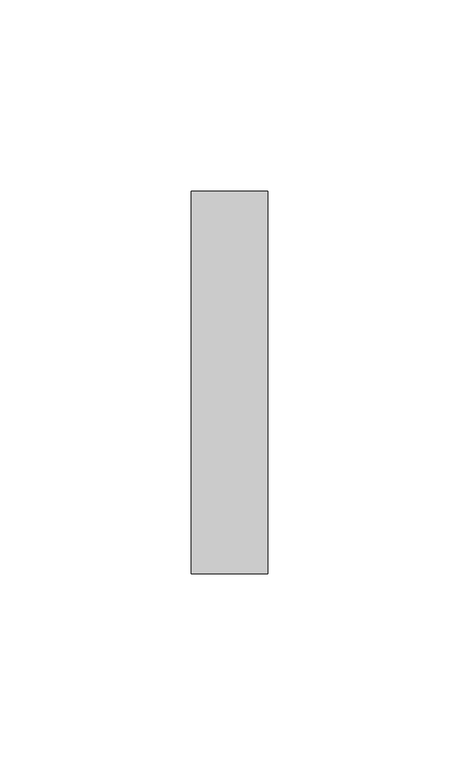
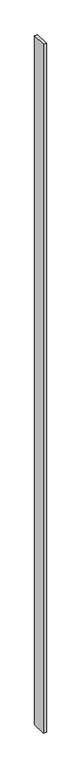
"""IFC4 building model written with IfcOpenShell, lengths in millimetres: plate geometry, システム パネルなし : なし."""

import ifcopenshell
import ifcopenshell.guid

model = None  # the IFC model being written
_history = None  # IfcOwnerHistory: only IFC2X3 demands one
_inside = {}  # id of a spatial element -> (the spatial element, [elements in it])
_under = {}  # id of a project, library or spatial element -> (it, [spatial elements below it])
_declared = {}  # id of a project -> (the project, [libraries it declares])
_typed = {}  # id of a type object -> (the type object, [elements of that type])
_made_of = {}  # id of a material, layer set ... -> (it, [elements and type objects made of it])


def new_model(schema):
    """Start an empty IFC model of exactly this schema.

    Asked for "IFC4X3", IfcOpenShell would pick the latest addendum, in which some entities
    have other attributes; the version numbers below select the first issue.
    IFC2X3 requires an IfcOwnerHistory on every rooted entity: one is made here for all.
    """
    global model, _history
    if schema == "IFC4X3":
        model = ifcopenshell.file(schema_version=(4, 3, 0, 0))
    else:
        model = ifcopenshell.file(schema=schema)
    _inside.clear()
    _under.clear()
    _declared.clear()
    _typed.clear()
    _made_of.clear()
    _history = None
    if model.schema == "IFC2X3":
        org = make("IfcOrganization", Name="unknown")
        user = make(
            "IfcPersonAndOrganization",
            ThePerson=make("IfcPerson", FamilyName="unknown"),
            TheOrganization=org,
        )
        app = make(
            "IfcApplication",
            ApplicationDeveloper=org,
            Version="unknown",
            ApplicationFullName="unknown",
            ApplicationIdentifier="unknown",
        )
        _history = make(
            "IfcOwnerHistory",
            OwningUser=user,
            OwningApplication=app,
            ChangeAction="ADDED",
            CreationDate=0,
        )
    return model


def make(cls, **values):
    """One entity of the class cls with the attributes given. An attribute that is None is left unset."""
    return model.create_entity(
        cls, **{name: value for name, value in values.items() if value is not None}
    )


def rooted(cls, **values):
    """An entity with a GlobalId (a new one), such as an element, a storey or a relation."""
    return make(cls, GlobalId=ifcopenshell.guid.new(), OwnerHistory=_history, **values)


def si_unit(unit_type, name, prefix=None):
    """IfcSIUnit, for example si_unit("LENGTHUNIT", "METRE", prefix="MILLI")."""
    return make("IfcSIUnit", UnitType=unit_type, Prefix=prefix, Name=name)


def assignment(units):
    """IfcUnitAssignment: the units of a project."""
    return None if units is None else make("IfcUnitAssignment", Units=units)


def point(xyz):
    """IfcCartesianPoint."""
    return None if xyz is None else make("IfcCartesianPoint", Coordinates=xyz)


def direction(xyz):
    """IfcDirection."""
    return None if xyz is None else make("IfcDirection", DirectionRatios=xyz)


def frame(location, z_axis=None, x_axis=None):
    """IfcAxis2Placement3D, a coordinate frame: its origin and axes. An axis left out is left unset."""
    return make(
        "IfcAxis2Placement3D",
        Location=point(location),
        Axis=direction(z_axis),
        RefDirection=direction(x_axis),
    )


def origin():
    """The frame at (0, 0, 0) with its axes left unset."""
    return frame((0.0, 0.0, 0.0))


def origin_with_axes():
    """The frame at (0, 0, 0) with the z axis (0, 0, 1) and the x axis (1, 0, 0) written out."""
    return frame((0.0, 0.0, 0.0), z_axis=(0.0, 0.0, 1.0), x_axis=(1.0, 0.0, 0.0))


def place(relative_to, where):
    """IfcLocalPlacement: puts the frame where relative to a parent placement (None: the world)."""
    return make(
        "IfcLocalPlacement", PlacementRelTo=relative_to, RelativePlacement=where
    )


def context(
    kind, dimensions, precision=None, world=None, true_north=None, identifier=None
):
    """IfcGeometricRepresentationContext, for example the 3D "Model" context."""
    return make(
        "IfcGeometricRepresentationContext",
        ContextIdentifier=identifier,
        ContextType=kind,
        CoordinateSpaceDimension=dimensions,
        Precision=precision,
        WorldCoordinateSystem=world,
        TrueNorth=true_north,
    )


def project(units=None, contexts=None):
    """IfcProject with its units and contexts."""
    return rooted(
        "IfcProject",
        Name="project",
        RepresentationContexts=contexts,
        UnitsInContext=assignment(units),
    )


def spatial(cls, under=None, at=None, **own):
    """A site, building, storey or space (cls), placed at a placement, below another one or the project."""
    s = rooted(cls, ObjectPlacement=at, **own)
    if under is not None:
        _under.setdefault(under.id(), (under, []))[1].append(s)
    return s


def polyline(points):
    """IfcPolyline through the points."""
    return make("IfcPolyline", Points=[point(p) for p in points])


def outline(outer, holes=None, kind="AREA"):
    """IfcArbitraryClosedProfileDef: a profile drawn as a closed curve; with holes, ...WithVoids."""
    if holes is None:
        return make("IfcArbitraryClosedProfileDef", ProfileType=kind, OuterCurve=outer)
    return make(
        "IfcArbitraryProfileDefWithVoids",
        ProfileType=kind,
        OuterCurve=outer,
        InnerCurves=holes,
    )


def extrude(swept, where, along, depth):
    """IfcExtrudedAreaSolid: the profile swept, set in the frame where, extruded along a direction by depth."""
    return make(
        "IfcExtrudedAreaSolid",
        SweptArea=swept,
        Position=where,
        ExtrudedDirection=direction(along),
        Depth=depth,
    )


def shape(context_of_items, identifier, shape_type, items):
    """IfcShapeRepresentation: the items that make up one representation, for example the "Body"."""
    return make(
        "IfcShapeRepresentation",
        ContextOfItems=context_of_items,
        RepresentationIdentifier=identifier,
        RepresentationType=shape_type,
        Items=items,
    )


def source(mapping_origin, context_of_items, identifier, shape_type, items):
    """IfcRepresentationMap: a shape defined once, which mapped items show again and again."""
    return make(
        "IfcRepresentationMap",
        MappingOrigin=mapping_origin,
        MappedRepresentation=shape(context_of_items, identifier, shape_type, items),
    )


def transform(
    local_origin,
    x_axis=None,
    y_axis=None,
    z_axis=None,
    scale=None,
    scale2=None,
    scale3=None,
    uniform=True,
):
    """IfcCartesianTransformationOperator3D, or its non-uniform kind. x_axis, y_axis, z_axis: its Axis1, 2, 3."""
    if uniform:
        return make(
            "IfcCartesianTransformationOperator3D",
            Axis1=direction(x_axis),
            Axis2=direction(y_axis),
            LocalOrigin=point(local_origin),
            Scale=scale,
            Axis3=direction(z_axis),
        )
    return make(
        "IfcCartesianTransformationOperator3DnonUniform",
        Axis1=direction(x_axis),
        Axis2=direction(y_axis),
        LocalOrigin=point(local_origin),
        Scale=scale,
        Axis3=direction(z_axis),
        Scale2=scale2,
        Scale3=scale3,
    )


def mapped(mapping_source, mapping_target):
    """IfcMappedItem: shows the shape of a source again, moved by a transform."""
    return make(
        "IfcMappedItem", MappingSource=mapping_source, MappingTarget=mapping_target
    )


def made_of(thing, what):
    """Note that an element or type object is made of a material, layer set ...; save() writes the relation."""
    if what is not None:
        _made_of.setdefault(what.id(), (what, []))[1].append(thing)
    return thing


def element(
    cls,
    number,
    at=None,
    inside=None,
    cuts=None,
    type_object=None,
    material=None,
    context=None,
    identifier="Body",
    shape_type=None,
    held_by="IfcProductDefinitionShape",
    body=None,
    shapes=None,
    **own,
):
    """One element of the class cls, such as IfcWall. Its Tag is "e" and its number.

    at: its placement. inside: the storey or other place that contains it. cuts: it is an
    opening in that element (IfcRelVoidsElement). A single representation is given by context,
    identifier, shape_type and body (its items); several are given by shapes. held_by: the class
    of the entity that holds the representations. save() writes the other relations.
    """
    e = rooted(cls, Tag="e%d" % number, ObjectPlacement=at, **own)
    if body is not None:
        shapes = [shape(context, identifier, shape_type, body)]
    if shapes is not None:
        e.Representation = make(held_by, Representations=shapes)
    if inside is not None:
        _inside.setdefault(inside.id(), (inside, []))[1].append(e)
    if cuts is not None:
        rooted(
            "IfcRelVoidsElement", RelatingBuildingElement=cuts, RelatedOpeningElement=e
        )
    if type_object is not None:
        _typed.setdefault(type_object.id(), (type_object, []))[1].append(e)
    return made_of(e, material)


def aggregate(whole, parts):
    """IfcRelAggregates: a whole, such as a stair, and the parts it consists of."""
    return rooted("IfcRelAggregates", RelatingObject=whole, RelatedObjects=parts)


def save(model, path):
    """Write the relations noted so far, then the file.

    IfcRelAggregates (storeys below a building ...), IfcRelContainedInSpatialStructure (elements
    in a storey), IfcRelDefinesByType, IfcRelAssociatesMaterial and IfcRelDeclares: one each for
    every whole, place, type object, material and project.
    """
    for whole, parts in _under.values():
        aggregate(whole, parts)
    for where, things in _inside.values():
        rooted(
            "IfcRelContainedInSpatialStructure",
            RelatedElements=things,
            RelatingStructure=where,
        )
    for kind, things in _typed.values():
        rooted("IfcRelDefinesByType", RelatedObjects=things, RelatingType=kind)
    for what, things in _made_of.values():
        rooted("IfcRelAssociatesMaterial", RelatedObjects=things, RelatingMaterial=what)
    for by, libraries in _declared.values():
        rooted("IfcRelDeclares", RelatingContext=by, RelatedDefinitions=libraries)
    model.write(path)


def plate_a6df87d5(model_context):
    return source(origin(), model_context, "Body", "SweptSolid", [
        extrude(outline(polyline([(10.0000002, -50.0), (-10.0000002, -50.0), (-10.0000002, 50.0), (10.0000002, 50.0), (10.0000002, -50.0)])), origin_with_axes(), (0.0, 0.0, 1.0), 4871.75),
    ])


if __name__ == "__main__":
    model = new_model("IFC4")
    model_context = context("Model", 3, world=origin())
    ifc_project = project(units=[si_unit("LENGTHUNIT", "METRE", prefix="MILLI")], contexts=[model_context])
    site = spatial("IfcSite", under=ifc_project)
    building = spatial("IfcBuilding", under=site)
    placement = place(None, origin())
    plate_shape = plate_a6df87d5(model_context)
    element("IfcPlate", 1, ObjectType="システム パネルなし : なし", at=placement, inside=building, context=model_context, shape_type="MappedRepresentation", body=[
        mapped(plate_shape, transform((0.0, 0.0, 0.0), x_axis=(1.0, 0.0, 0.0), y_axis=(0.0, 1.0, 0.0), z_axis=(0.0, 0.0, 1.0))),
    ])
    save(model, "model.ifc")
